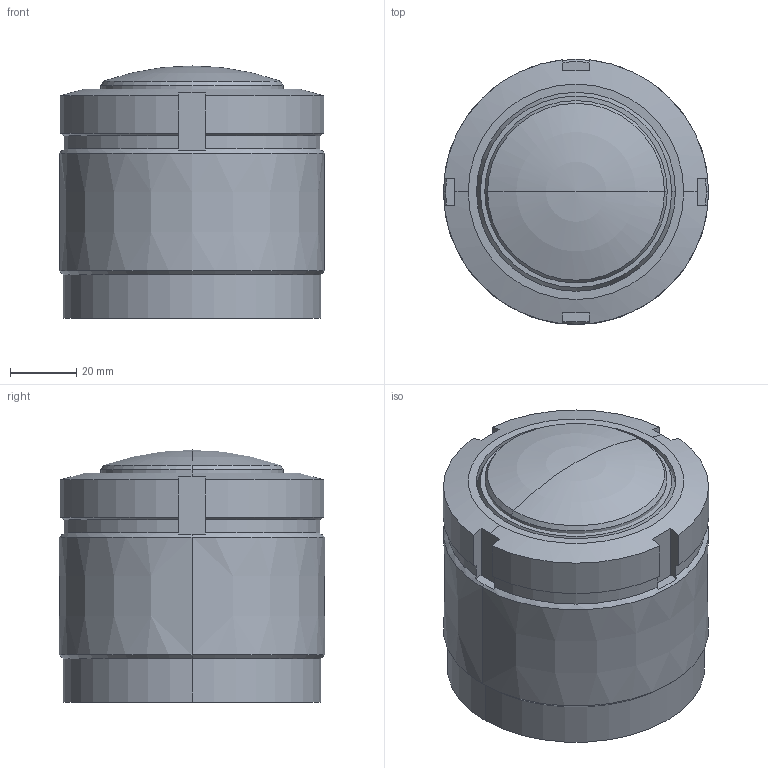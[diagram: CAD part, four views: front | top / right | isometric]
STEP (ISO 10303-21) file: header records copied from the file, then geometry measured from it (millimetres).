
FILE_DESCRIPTION((' '),'2;1');
FILE_NAME( 'TGP80-RS.x_t.stp', '2025-02-10T16:04:00', (' '), ('--- Datakit www.datakit.com---'), ' Datakit CrossCadWare V2024.1 Dec 21 2023', 'Mastercam 2025', ' ');
FILE_SCHEMA(('AUTOMOTIVE_DESIGN { 1 0 10303 214 1 1 1 1 }'));
Length unit declared in the file: millimetre
Products named in the file (1): TGP80-RS
Bounding box: 80 x 80 x 76 mm (x, y, z)
Volume: 377311.1 mm3; surface area: 37740.1 mm2
Topology: 2 solids, 2 shells, 73 faces, 181 edges, 115 vertices
Faces by surface type: plane 25, cone 22, cylinder 20, torus 4, sphere 2
Entity records: 2260 total; most frequent: CARTESIAN_POINT 504, DIRECTION 376, ORIENTED_EDGE 354, EDGE_CURVE 177, AXIS2_PLACEMENT_3D 155, VERTEX_POINT 115, CIRCLE 81, EDGE_LOOP 80
